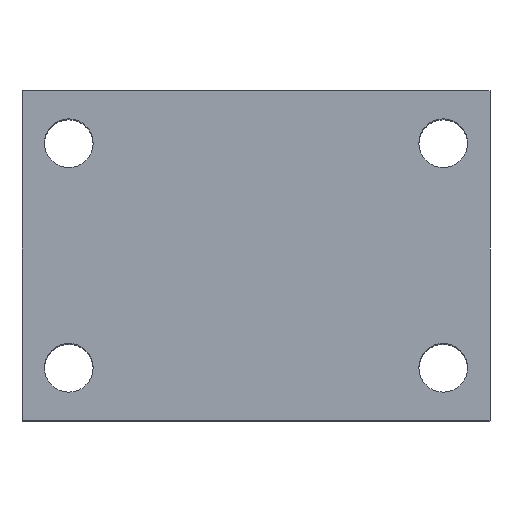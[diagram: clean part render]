
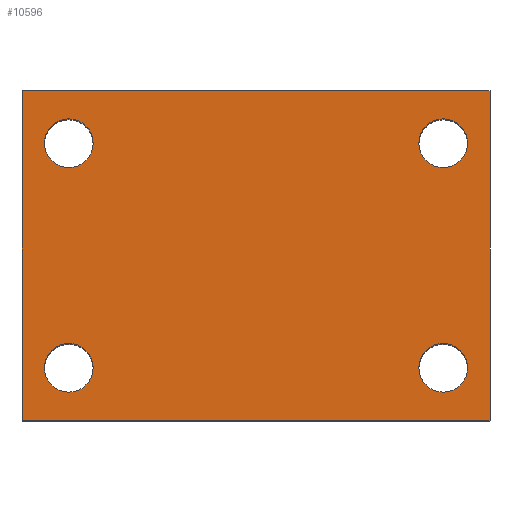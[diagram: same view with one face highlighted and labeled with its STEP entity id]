
A CAD part, top view. The second image highlights one B-rep face of the part: STEP entity #10596.
In plain terms, the highlighted planar face has unit normal (0, 0, 1).
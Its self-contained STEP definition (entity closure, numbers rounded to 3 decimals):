
#130 = ORIENTED_EDGE ( 'NONE', *, *, #16167, .T. ) ;
#318 = VERTEX_POINT ( 'NONE', #5221 ) ;
#509 = VERTEX_POINT ( 'NONE', #13479 ) ;
#521 = DIRECTION ( 'NONE',  ( -1., 0., 0. ) ) ;
#915 = CARTESIAN_POINT ( 'NONE',  ( -62.5, 88., 50. ) ) ;
#1226 = AXIS2_PLACEMENT_3D ( 'NONE', #6029, #15138, #7349 ) ;
#1230 = ORIENTED_EDGE ( 'NONE', *, *, #13297, .F. ) ;
#1313 = VERTEX_POINT ( 'NONE', #5070 ) ;
#1987 = DIRECTION ( 'NONE',  ( 1., 0., 0. ) ) ;
#2000 = FACE_BOUND ( 'NONE', #10471, .T. ) ;
#2528 = ORIENTED_EDGE ( 'NONE', *, *, #6887, .T. ) ;
#2535 = AXIS2_PLACEMENT_3D ( 'NONE', #6193, #15297, #7499 ) ;
#2603 = EDGE_CURVE ( 'NONE', #318, #14515, #11058, .T. ) ;
#2651 = VECTOR ( 'NONE', #7519, 1000. ) ;
#3070 = CARTESIAN_POINT ( 'NONE',  ( -56.5, 74., 50. ) ) ;
#3855 = LINE ( 'NONE', #17096, #5104 ) ;
#4002 = ORIENTED_EDGE ( 'NONE', *, *, #15930, .T. ) ;
#4045 = VECTOR ( 'NONE', #14629, 1000. ) ;
#4055 = DIRECTION ( 'NONE',  ( 0., -1., 0. ) ) ;
#4169 = CARTESIAN_POINT ( 'NONE',  ( -62.5, 88., 50. ) ) ;
#4285 = VERTEX_POINT ( 'NONE', #17185 ) ;
#4364 = VERTEX_POINT ( 'NONE', #9519 ) ;
#4716 = DIRECTION ( 'NONE',  ( 0., 0., -1. ) ) ;
#5041 = ORIENTED_EDGE ( 'NONE', *, *, #13860, .T. ) ;
#5070 = CARTESIAN_POINT ( 'NONE',  ( 62.5, 0., 50. ) ) ;
#5104 = VECTOR ( 'NONE', #4055, 1000. ) ;
#5120 = DIRECTION ( 'NONE',  ( 0., 0., -1. ) ) ;
#5128 = CARTESIAN_POINT ( 'NONE',  ( 43.5, 14., 50. ) ) ;
#5221 = CARTESIAN_POINT ( 'NONE',  ( -62.5, 88., 50. ) ) ;
#5512 = DIRECTION ( 'NONE',  ( -1., 0., 0. ) ) ;
#5542 = AXIS2_PLACEMENT_3D ( 'NONE', #16319, #8494, #521 ) ;
#5574 = FACE_BOUND ( 'NONE', #6512, .T. ) ;
#5683 = EDGE_CURVE ( 'NONE', #16776, #4285, #5973, .T. ) ;
#5973 = CIRCLE ( 'NONE', #1226, 6.5 ) ;
#5990 = AXIS2_PLACEMENT_3D ( 'NONE', #15782, #7966, #17157 ) ;
#6029 = CARTESIAN_POINT ( 'NONE',  ( 50., 74., 50. ) ) ;
#6193 = CARTESIAN_POINT ( 'NONE',  ( 50., 14., 50. ) ) ;
#6354 = CARTESIAN_POINT ( 'NONE',  ( -50., 14., 50. ) ) ;
#6366 = AXIS2_PLACEMENT_3D ( 'NONE', #12941, #5120, #14263 ) ;
#6436 = CIRCLE ( 'NONE', #2535, 6.5 ) ;
#6512 = EDGE_LOOP ( 'NONE', ( #14616, #130 ) ) ;
#6548 = CARTESIAN_POINT ( 'NONE',  ( 50., 14., 50. ) ) ;
#6623 = LINE ( 'NONE', #10056, #2651 ) ;
#6887 = EDGE_CURVE ( 'NONE', #4285, #16776, #6898, .T. ) ;
#6898 = CIRCLE ( 'NONE', #5990, 6.5 ) ;
#7151 = LINE ( 'NONE', #8130, #4045 ) ;
#7349 = DIRECTION ( 'NONE',  ( -1., 0., 0. ) ) ;
#7499 = DIRECTION ( 'NONE',  ( -1., 0., 0. ) ) ;
#7519 = DIRECTION ( 'NONE',  ( 0., -1., 0. ) ) ;
#7655 = DIRECTION ( 'NONE',  ( -1., 0., 0. ) ) ;
#7840 = DIRECTION ( 'NONE',  ( -1., 0., 0. ) ) ;
#7966 = DIRECTION ( 'NONE',  ( 0., 0., -1. ) ) ;
#8130 = CARTESIAN_POINT ( 'NONE',  ( -62.5, 0., 50. ) ) ;
#8281 = VERTEX_POINT ( 'NONE', #9439 ) ;
#8494 = DIRECTION ( 'NONE',  ( 0., 0., -1. ) ) ;
#8847 = EDGE_CURVE ( 'NONE', #4364, #8281, #10885, .T. ) ;
#8931 = AXIS2_PLACEMENT_3D ( 'NONE', #4169, #13321, #5512 ) ;
#9039 = FACE_BOUND ( 'NONE', #13167, .T. ) ;
#9389 = PLANE ( 'NONE',  #8931 ) ;
#9439 = CARTESIAN_POINT ( 'NONE',  ( -56.5, 14., 50. ) ) ;
#9476 = EDGE_CURVE ( 'NONE', #11484, #509, #6436, .T. ) ;
#9519 = CARTESIAN_POINT ( 'NONE',  ( -43.5, 14., 50. ) ) ;
#10056 = CARTESIAN_POINT ( 'NONE',  ( -62.5, 88., 50. ) ) ;
#10088 = ORIENTED_EDGE ( 'NONE', *, *, #8847, .T. ) ;
#10186 = CIRCLE ( 'NONE', #15743, 6.5 ) ;
#10471 = EDGE_LOOP ( 'NONE', ( #2528, #10950 ) ) ;
#10596 = ADVANCED_FACE ( 'NONE', ( #12513, #9039, #5574, #2000, #15578 ), #9389, .F. ) ;
#10690 = VERTEX_POINT ( 'NONE', #3070 ) ;
#10859 = CARTESIAN_POINT ( 'NONE',  ( -43.5, 74., 50. ) ) ;
#10873 = ORIENTED_EDGE ( 'NONE', *, *, #16758, .T. ) ;
#10880 = EDGE_CURVE ( 'NONE', #318, #13454, #6623, .T. ) ;
#10885 = CIRCLE ( 'NONE', #5542, 6.5 ) ;
#10950 = ORIENTED_EDGE ( 'NONE', *, *, #5683, .T. ) ;
#11058 = LINE ( 'NONE', #915, #16838 ) ;
#11484 = VERTEX_POINT ( 'NONE', #5128 ) ;
#12513 = FACE_BOUND ( 'NONE', #14422, .T. ) ;
#12552 = CARTESIAN_POINT ( 'NONE',  ( -50., 74., 50. ) ) ;
#12796 = AXIS2_PLACEMENT_3D ( 'NONE', #6548, #15642, #7840 ) ;
#12941 = CARTESIAN_POINT ( 'NONE',  ( -50., 74., 50. ) ) ;
#13092 = CARTESIAN_POINT ( 'NONE',  ( 62.5, 88., 50. ) ) ;
#13167 = EDGE_LOOP ( 'NONE', ( #5041, #10088 ) ) ;
#13253 = ORIENTED_EDGE ( 'NONE', *, *, #10880, .T. ) ;
#13297 = EDGE_CURVE ( 'NONE', #14515, #1313, #3855, .T. ) ;
#13321 = DIRECTION ( 'NONE',  ( 0., 0., -1. ) ) ;
#13328 = AXIS2_PLACEMENT_3D ( 'NONE', #12552, #4716, #13872 ) ;
#13454 = VERTEX_POINT ( 'NONE', #13592 ) ;
#13479 = CARTESIAN_POINT ( 'NONE',  ( 56.5, 14., 50. ) ) ;
#13592 = CARTESIAN_POINT ( 'NONE',  ( -62.5, 0., 50. ) ) ;
#13860 = EDGE_CURVE ( 'NONE', #8281, #4364, #10186, .T. ) ;
#13872 = DIRECTION ( 'NONE',  ( -1., 0., 0. ) ) ;
#14150 = VERTEX_POINT ( 'NONE', #10859 ) ;
#14263 = DIRECTION ( 'NONE',  ( -1., 0., 0. ) ) ;
#14422 = EDGE_LOOP ( 'NONE', ( #15570, #10873 ) ) ;
#14466 = CIRCLE ( 'NONE', #13328, 6.5 ) ;
#14515 = VERTEX_POINT ( 'NONE', #13092 ) ;
#14616 = ORIENTED_EDGE ( 'NONE', *, *, #9476, .T. ) ;
#14629 = DIRECTION ( 'NONE',  ( 1., 0., 0. ) ) ;
#14741 = EDGE_LOOP ( 'NONE', ( #4002, #1230, #15517, #13253 ) ) ;
#15093 = CIRCLE ( 'NONE', #12796, 6.5 ) ;
#15138 = DIRECTION ( 'NONE',  ( 0., 0., -1. ) ) ;
#15183 = CARTESIAN_POINT ( 'NONE',  ( 56.5, 74., 50. ) ) ;
#15297 = DIRECTION ( 'NONE',  ( 0., 0., -1. ) ) ;
#15461 = DIRECTION ( 'NONE',  ( 0., 0., -1. ) ) ;
#15517 = ORIENTED_EDGE ( 'NONE', *, *, #2603, .F. ) ;
#15570 = ORIENTED_EDGE ( 'NONE', *, *, #16496, .T. ) ;
#15578 = FACE_OUTER_BOUND ( 'NONE', #14741, .T. ) ;
#15642 = DIRECTION ( 'NONE',  ( 0., 0., -1. ) ) ;
#15743 = AXIS2_PLACEMENT_3D ( 'NONE', #6354, #15461, #7655 ) ;
#15782 = CARTESIAN_POINT ( 'NONE',  ( 50., 74., 50. ) ) ;
#15930 = EDGE_CURVE ( 'NONE', #13454, #1313, #7151, .T. ) ;
#16089 = CIRCLE ( 'NONE', #6366, 6.5 ) ;
#16167 = EDGE_CURVE ( 'NONE', #509, #11484, #15093, .T. ) ;
#16319 = CARTESIAN_POINT ( 'NONE',  ( -50., 14., 50. ) ) ;
#16496 = EDGE_CURVE ( 'NONE', #10690, #14150, #16089, .T. ) ;
#16758 = EDGE_CURVE ( 'NONE', #14150, #10690, #14466, .T. ) ;
#16776 = VERTEX_POINT ( 'NONE', #15183 ) ;
#16838 = VECTOR ( 'NONE', #1987, 1000. ) ;
#17096 = CARTESIAN_POINT ( 'NONE',  ( 62.5, 88., 50. ) ) ;
#17157 = DIRECTION ( 'NONE',  ( -1., 0., 0. ) ) ;
#17185 = CARTESIAN_POINT ( 'NONE',  ( 43.5, 74., 50. ) ) ;
